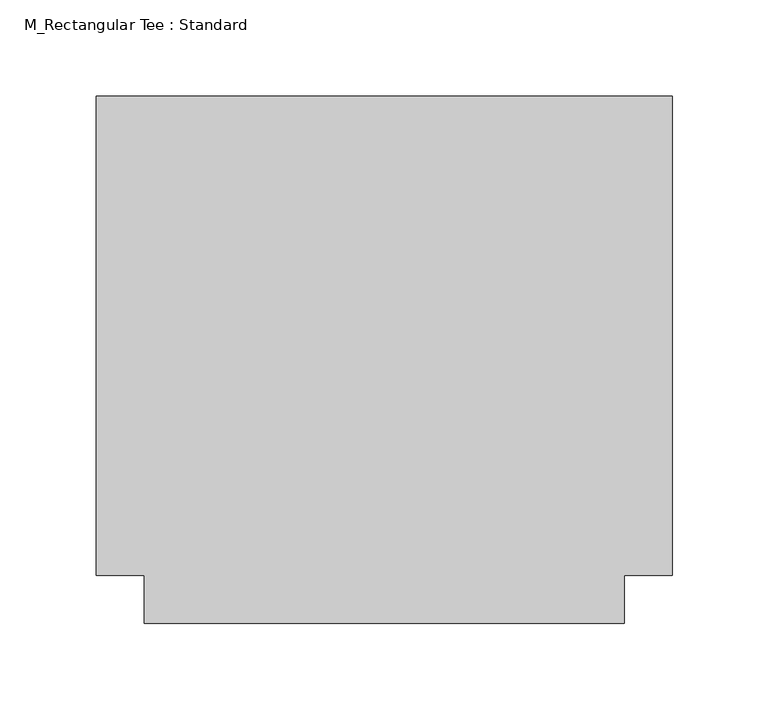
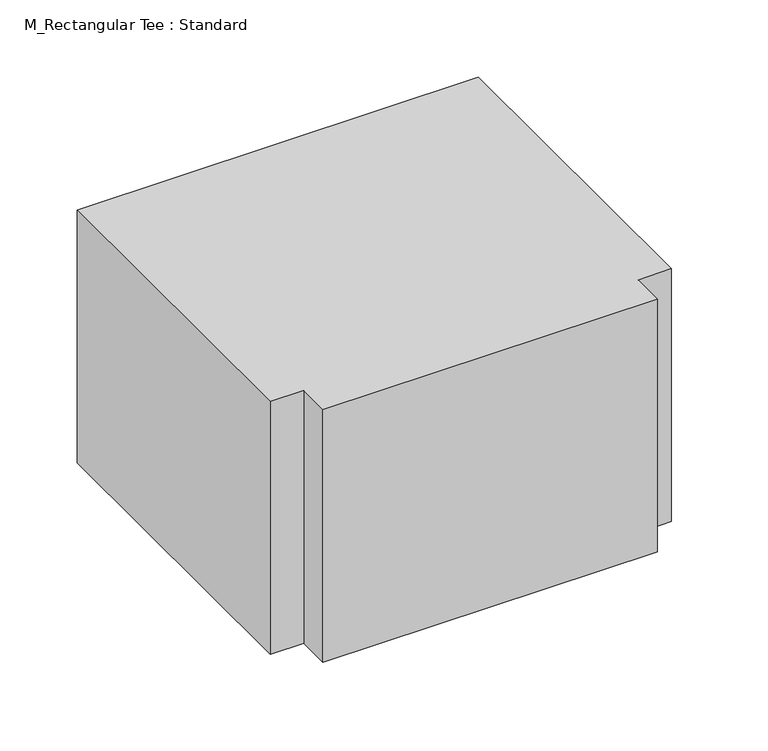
"""IFC4 building model written with IfcOpenShell, lengths in millimetres: duct fitting geometry, M_Rectangular Tee : Standard."""

from ifc_helpers import new_model, si_unit, frame, origin, place, context, project, spatial, polyline, outline, extrude, source, transform, mapped, element, save


def m_rectangular_tee_standard_9ab6ba4f(model_context):
    return source(origin(), model_context, "Body", "SweptSolid", [
        extrude(outline(polyline([(-150.0, -125.0), (-150.0, 125.0), (150.0, 125.0), (150.0, -125.0), (125.0, -125.0), (125.0, -150.0), (-125.0, -150.0), (-125.0, -125.0), (-150.0, -125.0)])), frame((0.0, 0.0, -100.0), z_axis=(0.0, 0.0, 1.0), x_axis=(1.0, 0.0, 0.0)), (0.0, 0.0, 1.0), 200.0),
        extrude(outline(polyline([(-150.0, 125.0), (150.0, 125.0), (150.0, -125.0), (125.0, -125.0), (125.0, -150.0), (-125.0, -150.0), (-125.0, -125.0), (-150.0, -125.0), (-150.0, 125.0)])), frame((0.0, 0.0, -100.0), z_axis=(0.0, 0.0, 1.0), x_axis=(1.0, 0.0, 0.0)), (0.0, 0.0, 1.0), 200.0),
        extrude(outline(polyline([(-150.0, -125.0), (-150.0, 125.0), (150.0, 125.0), (150.0, -125.0), (125.0, -125.0), (125.0, -150.0), (-125.0, -150.0), (-125.0, -125.0), (-150.0, -125.0)])), frame((0.0, 0.0, -100.0), z_axis=(0.0, 0.0, 1.0), x_axis=(1.0, 0.0, 0.0)), (0.0, 0.0, 1.0), 200.0),
    ])


if __name__ == "__main__":
    model = new_model("IFC4")
    model_context = context("Model", 3, world=origin())
    ifc_project = project(units=[si_unit("LENGTHUNIT", "METRE", prefix="MILLI")], contexts=[model_context])
    site = spatial("IfcSite", under=ifc_project)
    building = spatial("IfcBuilding", under=site)
    placement = place(None, origin())
    m_rectangular_tee_standard_shape = m_rectangular_tee_standard_9ab6ba4f(model_context)
    element("IfcDuctFitting", 1, ObjectType="M_Rectangular Tee : Standard", at=placement, inside=building, context=model_context, shape_type="MappedRepresentation", body=[
        mapped(m_rectangular_tee_standard_shape, transform((0.0, 0.0, 0.0), x_axis=(1.0, 0.0, 0.0), y_axis=(0.0, 1.0, 0.0), z_axis=(0.0, 0.0, 1.0))),
    ])
    save(model, "model.ifc")
